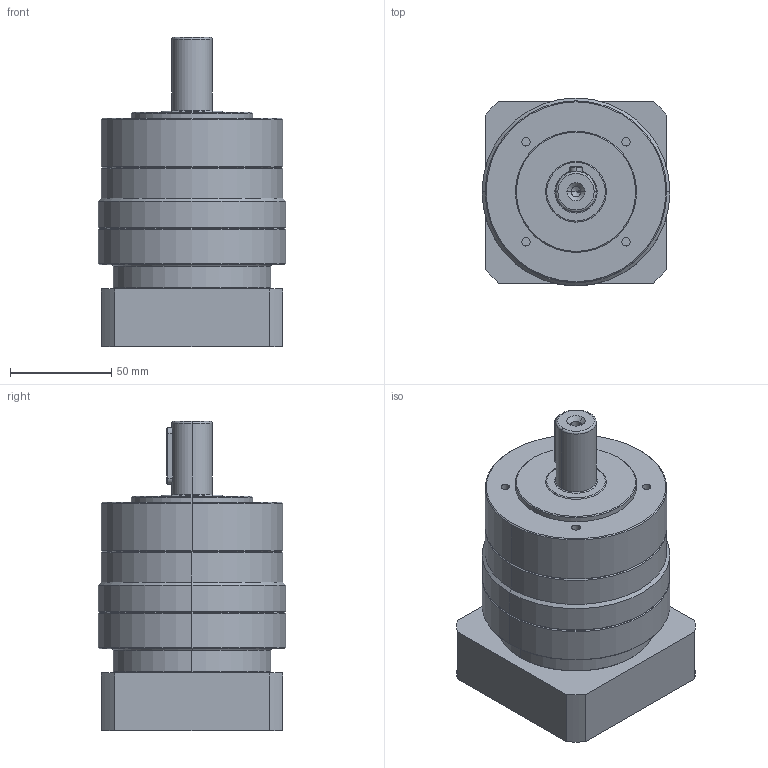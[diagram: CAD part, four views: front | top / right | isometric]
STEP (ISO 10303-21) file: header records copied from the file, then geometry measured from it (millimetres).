
FILE_DESCRIPTION (( 'STEP AP214' ), '1' );
FILE_NAME ('FE090-L1-S2-P2 19-70-90-M5.STEP', '2024-01-23T02:42:42', ( '微软用户' ), ( '微软中国' ), 'SwSTEP 2.0', 'SolidWorks 2018', '' );
FILE_SCHEMA (( 'AUTOMOTIVE_DESIGN' ));
Length unit declared in the file: millimetre
Products named in the file (1): FE090-L1-S2-P2 19-70-90-M5
Bounding box: 93 x 93 x 153 mm (x, y, z)
Volume: 710177.2 mm3; surface area: 68763.4 mm2
Topology: 1 solids, 1 shells, 111 faces, 238 edges, 145 vertices
Faces by surface type: cylinder 47, plane 31, cone 25, torus 8
Entity records: 3116 total; most frequent: DIRECTION 586, CARTESIAN_POINT 556, ORIENTED_EDGE 472, AXIS2_PLACEMENT_3D 241, EDGE_CURVE 236, VERTEX_POINT 145, CIRCLE 129, EDGE_LOOP 129
